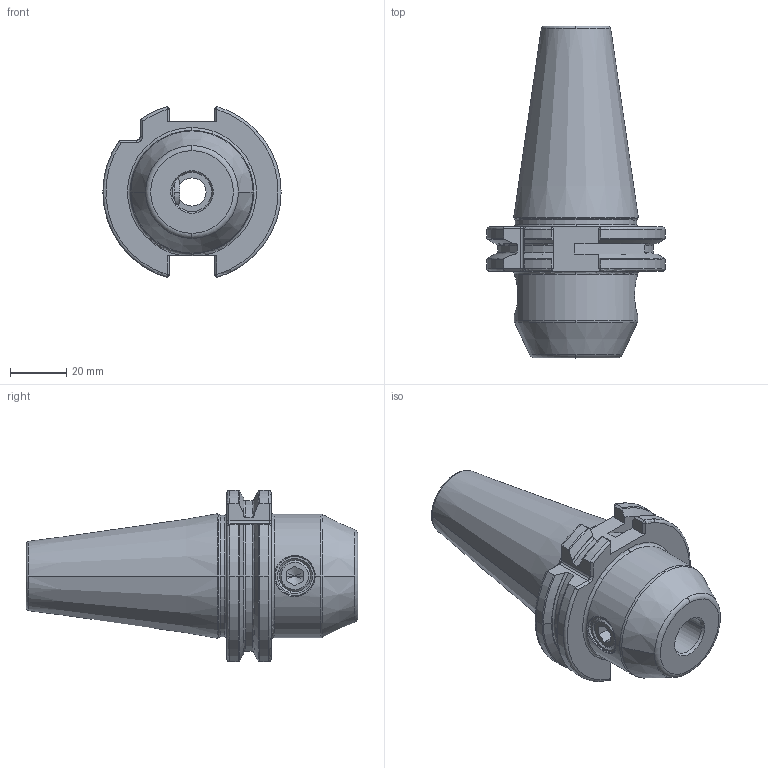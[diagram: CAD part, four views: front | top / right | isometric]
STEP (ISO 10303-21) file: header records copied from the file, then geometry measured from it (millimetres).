
FILE_DESCRIPTION (( 'STEP AP214' ), '1' );
FILE_NAME ('04-0520.STEP', '2022-02-02T18:19:22', ( '' ), ( '' ), 'SwSTEP 2.0', 'SolidWorks 2021', '' );
FILE_SCHEMA (( 'AUTOMOTIVE_DESIGN' ));
Length unit declared in the file: inch
Products named in the file (1): 04-0520
Bounding box: 63.55 x 118.4 x 61.05 mm (x, y, z)
Volume: 135576.7 mm3; surface area: 25591 mm2
Topology: 1 solids, 1 shells, 194 faces, 505 edges, 314 vertices
Faces by surface type: plane 57, cylinder 43, cone 40, torus 34, bspline 18, sphere 2
Entity records: 9951 total; most frequent: CARTESIAN_POINT 2801, ORIENTED_EDGE 1002, DIRECTION 931, EDGE_CURVE 501, AXIS2_PLACEMENT_3D 366, VERTEX_POINT 314, EDGE_LOOP 201, LINE 199
